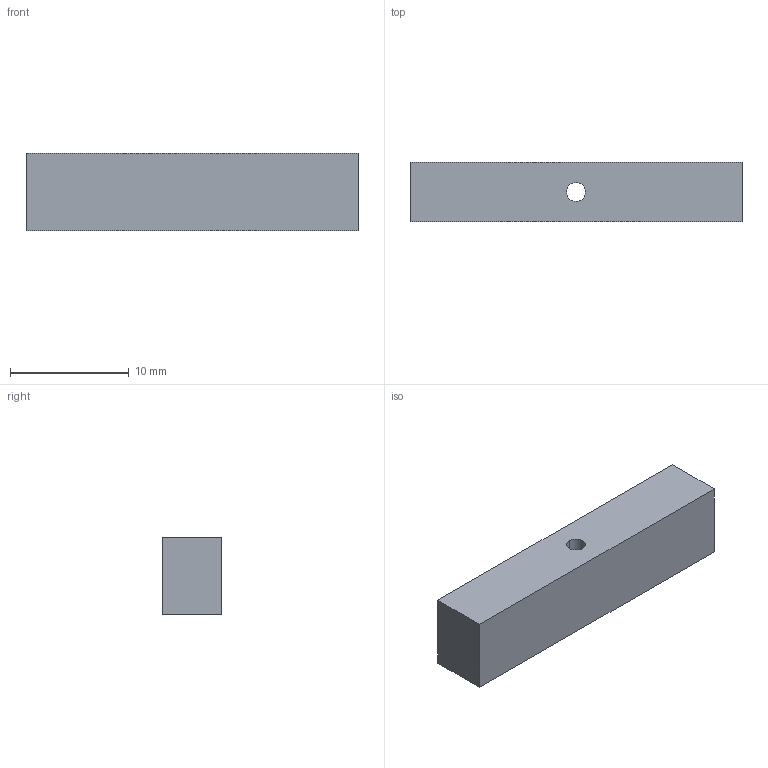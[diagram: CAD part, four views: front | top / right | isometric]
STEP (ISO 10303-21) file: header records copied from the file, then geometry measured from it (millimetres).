
FILE_DESCRIPTION(('STEP AP214'),'1');
FILE_NAME('tmp0.STEP','2026-06-08T18:13:55',(' '),(' '),'Spatial InterOp 3D',' ',' ');
FILE_SCHEMA(('AUTOMOTIVE_DESIGN { 1 0 10303 214 1 1 1 1 }'));
Length unit declared in the file: millimetre
Products named in the file (1): 1
Bounding box: 28 x 5 x 6.5 mm (x, y, z)
Volume: 896.9 mm3; surface area: 737.7 mm2
Topology: 1 solids, 1 shells, 8 faces, 18 edges, 12 vertices
Faces by surface type: plane 6, cylinder 2
Entity records: 255 total; most frequent: DIRECTION 40, CARTESIAN_POINT 39, ORIENTED_EDGE 36, EDGE_CURVE 18, LINE 14, VECTOR 14, AXIS2_PLACEMENT_3D 13, VERTEX_POINT 12
